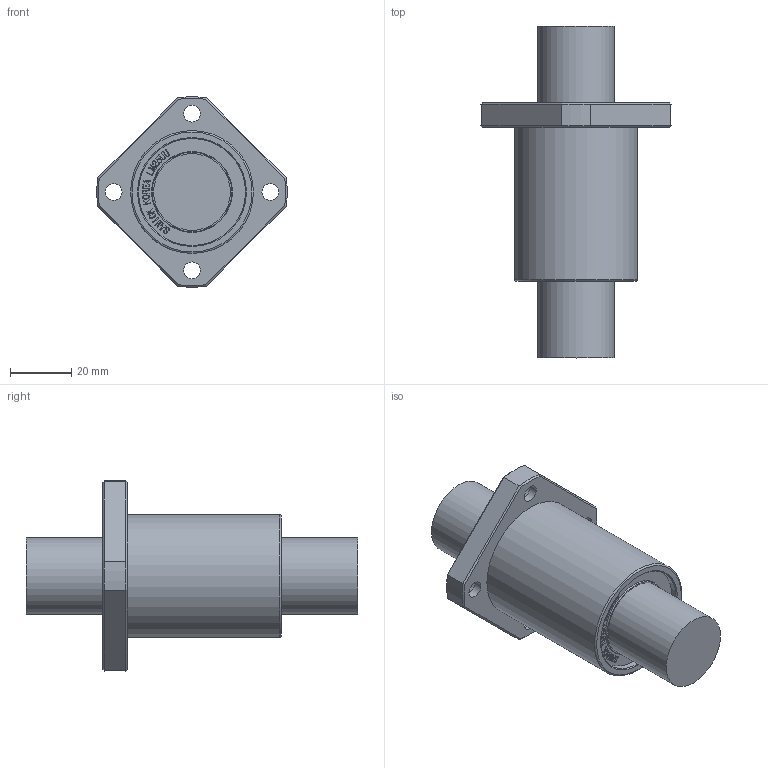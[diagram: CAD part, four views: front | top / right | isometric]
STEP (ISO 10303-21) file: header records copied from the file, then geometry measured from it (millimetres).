
FILE_DESCRIPTION(/* description */ (''),/* implementation_level */ '2;1');
FILE_NAME(/* name */ 'W:\(01) 2024년 홈페이지 CAD파일 최신화\LMEK\IPT\LMEK25UU.stp',/* time_stamp */ '2025-01-25T10:46:04+09:00',/* author */ ('서우현'),/* organization */ (''),/* preprocessor_version */ 'ST-DEVELOPER v17.2',/* originating_system */ 'Autodesk Inventor 2019',/* authorisation */ '');
FILE_SCHEMA (('AUTOMOTIVE_DESIGN { 1 0 10303 214 3 1 1 }'));
Length unit declared in the file: millimetre
Products named in the file (1): LM5
Bounding box: 61.92 x 108 x 61.92 mm (x, y, z)
Volume: 102856.7 mm3; surface area: 17953.5 mm2
Topology: 1 solids, 1 shells, 890 faces, 2510 edges, 1676 vertices
Faces by surface type: bspline 612, plane 246, cylinder 18, cone 12, torus 2
Full cylindrical faces by diameter (mm): 5.5 x4, 9.5 x4, 25 x2, 34.8 x2, 40 x2
Entity records: 30646 total; most frequent: CARTESIAN_POINT 11337, ORIENTED_EDGE 5020, EDGE_CURVE 2510, DIRECTION 1910, VERTEX_POINT 1676, B_SPLINE_CURVE_WITH_KNOTS 1224, LINE 1188, VECTOR 1188
